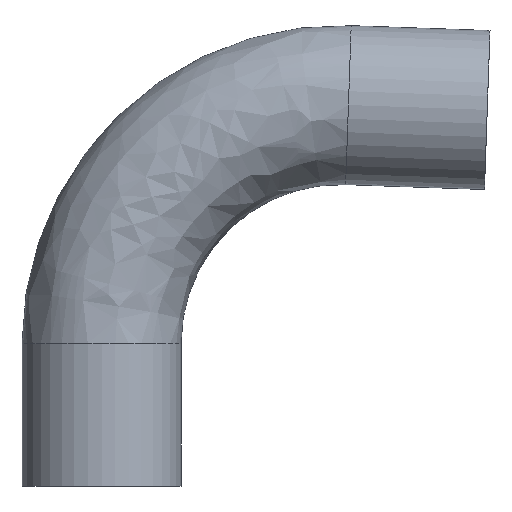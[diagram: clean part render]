
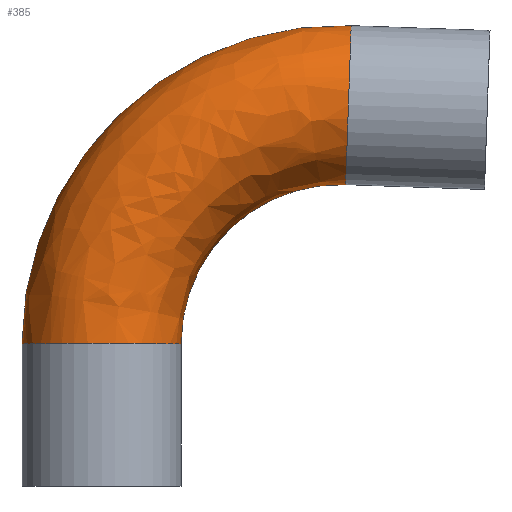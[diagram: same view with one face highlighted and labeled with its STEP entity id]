
A CAD part, top view. The second image highlights one B-rep face of the part: STEP entity #385.
In plain terms, the highlighted free-form (B-spline) face has degree [3, 3] with [4, 4] control points.
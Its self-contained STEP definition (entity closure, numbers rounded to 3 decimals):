
#12 = CARTESIAN_POINT ( 'NONE',  ( 47.403, 97.371, 50.8 ) ) ;
#21 = CARTESIAN_POINT ( 'NONE',  ( 25.4, 45.534, 0. ) ) ;
#26 =( BOUNDED_SURFACE ( )  B_SPLINE_SURFACE ( 3, 3, ( 
 ( #362, #131, #358, #349 ),
 ( #342, #234, #209, #204 ),
 ( #105, #198, #12, #398 ),
 ( #99, #65, #372, #35 ) ),
 .UNSPECIFIED., .F., .F., .F. ) 
 B_SPLINE_SURFACE_WITH_KNOTS ( ( 4, 4 ),
 ( 4, 4 ),
 ( 0., 1. ),
 ( 0., 1. ),
 .UNSPECIFIED. ) 
 GEOMETRIC_REPRESENTATION_ITEM ( )  RATIONAL_B_SPLINE_SURFACE ( (
 ( 1., 0.796, 0.796, 1.),
 ( 0.333, 0.265, 0.265, 0.333),
 ( 0.333, 0.265, 0.265, 0.333),
 ( 1., 0.796, 0.796, 1.) ) ) 
 REPRESENTATION_ITEM ( '' )  SURFACE ( )  );
#31 = EDGE_CURVE ( 'NONE', #237, #40, #351, .T. ) ;
#35 = CARTESIAN_POINT ( 'NONE',  ( 77.973, 96.304, 0. ) ) ;
#39 = EDGE_LOOP ( 'NONE', ( #216, #271, #303, #173 ) ) ;
#40 = VERTEX_POINT ( 'NONE', #239 ) ;
#44 = FACE_OUTER_BOUND ( 'NONE', #39, .T. ) ;
#55 = DIRECTION ( 'NONE',  ( 0., 1., 0. ) ) ;
#58 = DIRECTION ( 'NONE',  ( -1., 0., 0. ) ) ;
#62 = CARTESIAN_POINT ( 'NONE',  ( 76.2, 45.534, 0. ) ) ;
#65 = CARTESIAN_POINT ( 'NONE',  ( 25.4, 76.123, 0. ) ) ;
#69 = CARTESIAN_POINT ( 'NONE',  ( 0., 45.534, 0. ) ) ;
#83 = CARTESIAN_POINT ( 'NONE',  ( -25.4, 45.534, 0. ) ) ;
#91 = CARTESIAN_POINT ( 'NONE',  ( 76.2, 45.534, 0. ) ) ;
#99 = CARTESIAN_POINT ( 'NONE',  ( 25.4, 45.534, 0. ) ) ;
#101 = AXIS2_PLACEMENT_3D ( 'NONE', #69, #55, #58 ) ;
#105 = CARTESIAN_POINT ( 'NONE',  ( 25.4, 45.534, 50.8 ) ) ;
#125 = DIRECTION ( 'NONE',  ( 0., 0., -1. ) ) ;
#131 = CARTESIAN_POINT ( 'NONE',  ( -25.4, 106.711, 0. ) ) ;
#167 = EDGE_CURVE ( 'NONE', #40, #248, #406, .T. ) ;
#173 = ORIENTED_EDGE ( 'NONE', *, *, #187, .F. ) ;
#187 = EDGE_CURVE ( 'NONE', #336, #248, #378, .T. ) ;
#198 = CARTESIAN_POINT ( 'NONE',  ( 25.4, 76.123, 50.8 ) ) ;
#204 = CARTESIAN_POINT ( 'NONE',  ( 79.746, 147.073, 50.8 ) ) ;
#207 = AXIS2_PLACEMENT_3D ( 'NONE', #91, #324, #386 ) ;
#209 = CARTESIAN_POINT ( 'NONE',  ( 18.607, 149.208, 50.8 ) ) ;
#216 = ORIENTED_EDGE ( 'NONE', *, *, #299, .T. ) ;
#234 = CARTESIAN_POINT ( 'NONE',  ( -25.4, 106.711, 50.8 ) ) ;
#237 = VERTEX_POINT ( 'NONE', #21 ) ;
#239 = CARTESIAN_POINT ( 'NONE',  ( 77.973, 96.304, 0. ) ) ;
#248 = VERTEX_POINT ( 'NONE', #369 ) ;
#271 = ORIENTED_EDGE ( 'NONE', *, *, #31, .T. ) ;
#299 = EDGE_CURVE ( 'NONE', #336, #237, #463, .T. ) ;
#303 = ORIENTED_EDGE ( 'NONE', *, *, #167, .T. ) ;
#324 = DIRECTION ( 'NONE',  ( 0., 0., -1. ) ) ;
#329 = DIRECTION ( 'NONE',  ( -1., 0., 0. ) ) ;
#336 = VERTEX_POINT ( 'NONE', #83 ) ;
#342 = CARTESIAN_POINT ( 'NONE',  ( -25.4, 45.534, 50.8 ) ) ;
#349 = CARTESIAN_POINT ( 'NONE',  ( 79.746, 147.073, 0. ) ) ;
#351 = CIRCLE ( 'NONE', #454, 50.8 ) ;
#358 = CARTESIAN_POINT ( 'NONE',  ( 18.607, 149.208, 0. ) ) ;
#362 = CARTESIAN_POINT ( 'NONE',  ( -25.4, 45.534, 0. ) ) ;
#369 = CARTESIAN_POINT ( 'NONE',  ( 79.746, 147.073, 0. ) ) ;
#372 = CARTESIAN_POINT ( 'NONE',  ( 47.403, 97.371, 0. ) ) ;
#378 = CIRCLE ( 'NONE', #207, 101.6 ) ;
#385 = ADVANCED_FACE ( 'NONE', ( #44 ), #26, .T. ) ;
#386 = DIRECTION ( 'NONE',  ( -1., 0., 0. ) ) ;
#396 = DIRECTION ( 'NONE',  ( -0.999, 0.035, 0. ) ) ;
#398 = CARTESIAN_POINT ( 'NONE',  ( 77.973, 96.304, 50.8 ) ) ;
#402 = CARTESIAN_POINT ( 'NONE',  ( 78.859, 121.688, 0. ) ) ;
#406 = CIRCLE ( 'NONE', #440, 25.4 ) ;
#431 = DIRECTION ( 'NONE',  ( 0.035, 0.999, 0. ) ) ;
#440 = AXIS2_PLACEMENT_3D ( 'NONE', #402, #396, #431 ) ;
#454 = AXIS2_PLACEMENT_3D ( 'NONE', #62, #125, #329 ) ;
#463 = CIRCLE ( 'NONE', #101, 25.4 ) ;
